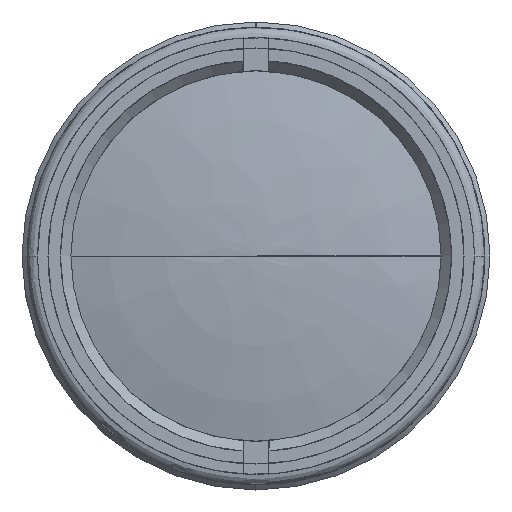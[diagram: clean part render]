
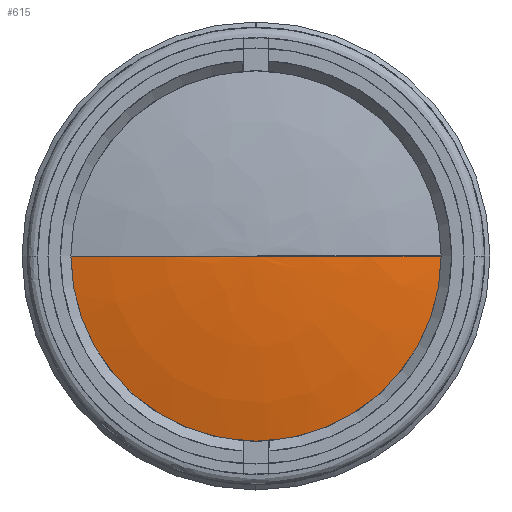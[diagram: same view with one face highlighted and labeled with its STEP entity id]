
A CAD part, left-side view. The second image highlights one B-rep face of the part: STEP entity #615.
In plain terms, the highlighted face is a revolution surface.
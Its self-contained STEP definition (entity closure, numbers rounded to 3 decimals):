
#615 = ADVANCED_FACE('',(#616),#634,.T.);
#616 = FACE_BOUND('',#617,.T.);
#617 = EDGE_LOOP('',(#618,#648,#667,#686));
#618 = ORIENTED_EDGE('',*,*,#619,.F.);
#619 = EDGE_CURVE('',#620,#622,#624,.T.);
#620 = VERTEX_POINT('',#621);
#621 = CARTESIAN_POINT('',(-78.884,0.,
    0.));
#622 = VERTEX_POINT('',#623);
#623 = CARTESIAN_POINT('',(-76.683,19.5,
    0.));
#624 = SURFACE_CURVE('',#625,(#633),.PCURVE_S1.);
#625 = ( BOUNDED_CURVE() B_SPLINE_CURVE(6,(#626,#627,#628,#629,#630,#631
,#632),.UNSPECIFIED.,.F.,.F.) B_SPLINE_CURVE_WITH_KNOTS((7,7),(0.,1.),
.PIECEWISE_BEZIER_KNOTS.) CURVE() GEOMETRIC_REPRESENTATION_ITEM() 
RATIONAL_B_SPLINE_CURVE((1.001,1.,1.,
    1.,1.,1.,1.001)) 
REPRESENTATION_ITEM('') );
#626 = CARTESIAN_POINT('',(-78.884,0.,
    0.));
#627 = CARTESIAN_POINT('',(-78.884,3.279,
    0.));
#628 = CARTESIAN_POINT('',(-78.737,6.556,
    0.));
#629 = CARTESIAN_POINT('',(-78.442,9.824,
    0.));
#630 = CARTESIAN_POINT('',(-78.001,13.076,
    0.));
#631 = CARTESIAN_POINT('',(-77.414,16.304,
    0.));
#632 = CARTESIAN_POINT('',(-76.683,19.5,
    0.));
#633 = PCURVE('',#634,#643);
#634 = SURFACE_OF_REVOLUTION('',#635,#640);
#635 = CIRCLE('',#636,87.5);
#636 = AXIS2_PLACEMENT_3D('',#637,#638,#639);
#637 = CARTESIAN_POINT('',(8.616,0.,0.));
#638 = DIRECTION('',(-0.,0.,1.));
#639 = DIRECTION('',(1.,0.,0.));
#640 = AXIS1_PLACEMENT('',#641,#642);
#641 = CARTESIAN_POINT('',(8.616,0.,0.));
#642 = DIRECTION('',(1.,0.,0.));
#643 = DEFINITIONAL_REPRESENTATION('',(#644),#647);
#644 = B_SPLINE_CURVE_WITH_KNOTS('',1,(#645,#646),.UNSPECIFIED.,.F.,.F.,
  (2,2),(0.,1.),.PIECEWISE_BEZIER_KNOTS.);
#645 = CARTESIAN_POINT('',(6.283,3.142));
#646 = CARTESIAN_POINT('',(6.283,2.917));
#647 = ( GEOMETRIC_REPRESENTATION_CONTEXT(2) 
PARAMETRIC_REPRESENTATION_CONTEXT() REPRESENTATION_CONTEXT('',''
  ) );
#648 = ORIENTED_EDGE('',*,*,#649,.F.);
#649 = EDGE_CURVE('',#650,#620,#652,.T.);
#650 = VERTEX_POINT('',#651);
#651 = CARTESIAN_POINT('',(-78.884,0.,0.
    ));
#652 = SURFACE_CURVE('',#653,(#661),.PCURVE_S1.);
#653 = ( BOUNDED_CURVE() B_SPLINE_CURVE(6,(#654,#655,#656,#657,#658,#659
,#660),.UNSPECIFIED.,.F.,.F.) B_SPLINE_CURVE_WITH_KNOTS((7,7),(0.,1.),
.PIECEWISE_BEZIER_KNOTS.) CURVE() GEOMETRIC_REPRESENTATION_ITEM() 
RATIONAL_B_SPLINE_CURVE((1.133,1.036,0.992,
    0.976,0.992,1.036,1.133)) 
REPRESENTATION_ITEM('') );
#654 = CARTESIAN_POINT('',(-78.884,0.,
    0.));
#655 = CARTESIAN_POINT('',(-78.884,0.,
    0.));
#656 = CARTESIAN_POINT('',(-78.884,0.,
    0.));
#657 = CARTESIAN_POINT('',(-78.884,0.,
    0.));
#658 = CARTESIAN_POINT('',(-78.884,0.,
    0.));
#659 = CARTESIAN_POINT('',(-78.884,0.,
    0.));
#660 = CARTESIAN_POINT('',(-78.884,0.,
    0.));
#661 = PCURVE('',#634,#662);
#662 = DEFINITIONAL_REPRESENTATION('',(#663),#666);
#663 = B_SPLINE_CURVE_WITH_KNOTS('',1,(#664,#665),.UNSPECIFIED.,.F.,.F.,
  (2,2),(0.,1.),.PIECEWISE_BEZIER_KNOTS.);
#664 = CARTESIAN_POINT('',(3.142,3.142));
#665 = CARTESIAN_POINT('',(6.283,3.142));
#666 = ( GEOMETRIC_REPRESENTATION_CONTEXT(2) 
PARAMETRIC_REPRESENTATION_CONTEXT() REPRESENTATION_CONTEXT('',''
  ) );
#667 = ORIENTED_EDGE('',*,*,#668,.F.);
#668 = EDGE_CURVE('',#669,#650,#671,.T.);
#669 = VERTEX_POINT('',#670);
#670 = CARTESIAN_POINT('',(-76.683,-19.5,
    0.));
#671 = SURFACE_CURVE('',#672,(#680),.PCURVE_S1.);
#672 = ( BOUNDED_CURVE() B_SPLINE_CURVE(6,(#673,#674,#675,#676,#677,#678
,#679),.UNSPECIFIED.,.F.,.F.) B_SPLINE_CURVE_WITH_KNOTS((7,7),(0.,1.),
.PIECEWISE_BEZIER_KNOTS.) CURVE() GEOMETRIC_REPRESENTATION_ITEM() 
RATIONAL_B_SPLINE_CURVE((1.001,1.,1.,
    1.,1.,1.,1.001)) 
REPRESENTATION_ITEM('') );
#673 = CARTESIAN_POINT('',(-76.683,-19.5,
    0.));
#674 = CARTESIAN_POINT('',(-77.414,-16.304,
    0.));
#675 = CARTESIAN_POINT('',(-78.001,-13.076,
    0.));
#676 = CARTESIAN_POINT('',(-78.442,-9.824,
    0.));
#677 = CARTESIAN_POINT('',(-78.737,-6.556,
    0.));
#678 = CARTESIAN_POINT('',(-78.884,-3.279,
    0.));
#679 = CARTESIAN_POINT('',(-78.884,0.,
    0.));
#680 = PCURVE('',#634,#681);
#681 = DEFINITIONAL_REPRESENTATION('',(#682),#685);
#682 = B_SPLINE_CURVE_WITH_KNOTS('',1,(#683,#684),.UNSPECIFIED.,.F.,.F.,
  (2,2),(0.,1.),.PIECEWISE_BEZIER_KNOTS.);
#683 = CARTESIAN_POINT('',(3.142,2.917));
#684 = CARTESIAN_POINT('',(3.142,3.142));
#685 = ( GEOMETRIC_REPRESENTATION_CONTEXT(2) 
PARAMETRIC_REPRESENTATION_CONTEXT() REPRESENTATION_CONTEXT('',''
  ) );
#686 = ORIENTED_EDGE('',*,*,#687,.F.);
#687 = EDGE_CURVE('',#622,#669,#688,.T.);
#688 = SURFACE_CURVE('',#689,(#700),.PCURVE_S1.);
#689 = B_SPLINE_CURVE_WITH_KNOTS('',9,(#690,#691,#692,#693,#694,#695,
    #696,#697,#698,#699),.UNSPECIFIED.,.F.,.F.,(10,10),(0.,1.),
  .PIECEWISE_BEZIER_KNOTS.);
#690 = CARTESIAN_POINT('',(-76.683,19.5,
    0.));
#691 = CARTESIAN_POINT('',(-76.683,19.5,
    -6.807));
#692 = CARTESIAN_POINT('',(-76.683,16.827,
    -13.614));
#693 = CARTESIAN_POINT('',(-76.683,11.481,
    -19.22));
#694 = CARTESIAN_POINT('',(-76.683,4.09,
    -22.43));
#695 = CARTESIAN_POINT('',(-76.683,-4.09,
    -22.43));
#696 = CARTESIAN_POINT('',(-76.683,-11.481,
    -19.22));
#697 = CARTESIAN_POINT('',(-76.683,-16.827,
    -13.614));
#698 = CARTESIAN_POINT('',(-76.683,-19.5,
    -6.807));
#699 = CARTESIAN_POINT('',(-76.683,-19.5,
    0.));
#700 = PCURVE('',#634,#701);
#701 = DEFINITIONAL_REPRESENTATION('',(#702),#705);
#702 = B_SPLINE_CURVE_WITH_KNOTS('',1,(#703,#704),.UNSPECIFIED.,.F.,.F.,
  (2,2),(0.,1.),.PIECEWISE_BEZIER_KNOTS.);
#703 = CARTESIAN_POINT('',(6.283,2.917));
#704 = CARTESIAN_POINT('',(3.142,2.917));
#705 = ( GEOMETRIC_REPRESENTATION_CONTEXT(2) 
PARAMETRIC_REPRESENTATION_CONTEXT() REPRESENTATION_CONTEXT('',''
  ) );
